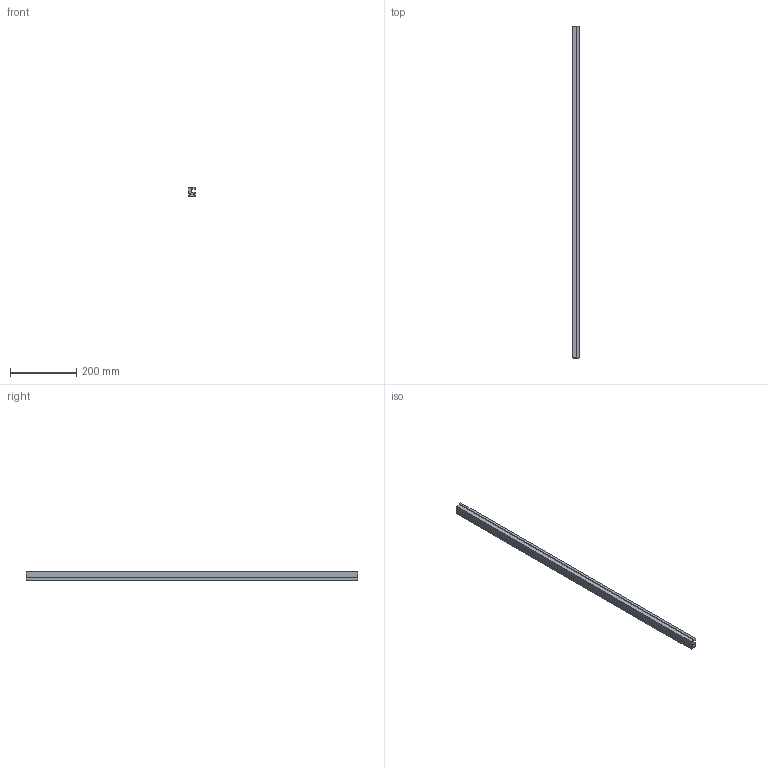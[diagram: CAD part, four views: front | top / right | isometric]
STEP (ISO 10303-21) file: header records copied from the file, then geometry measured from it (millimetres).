
FILE_DESCRIPTION(('CATIA V5 STEP Exchange'),'2;1');
FILE_NAME('C:\Users\ALI OZGUN\Desktop\alhan\PROFILLER\2071TTC12.stp','2017-12-29T14:03:13+00:00',('none'),('none'),'CATIA Version 5 Release 21 GA (IN-10)','CATIA V5 STEP AP203','none');
FILE_SCHEMA(('CONFIG_CONTROL_DESIGN'));
Length unit declared in the file: millimetre
Products named in the file (1): 2071TTC12
Bounding box: 20 x 1000 x 30 mm (x, y, z)
Volume: 440781.6 mm3; surface area: 232764.7 mm2
Topology: 2 solids, 2 shells, 42 faces, 114 edges, 76 vertices
Faces by surface type: plane 38, cylinder 4
Entity records: 1273 total; most frequent: ORIENTED_EDGE 228, CARTESIAN_POINT 220, DIRECTION 172, EDGE_CURVE 114, VECTOR 106, LINE 106, VERTEX_POINT 76, ADVANCED_FACE 42
